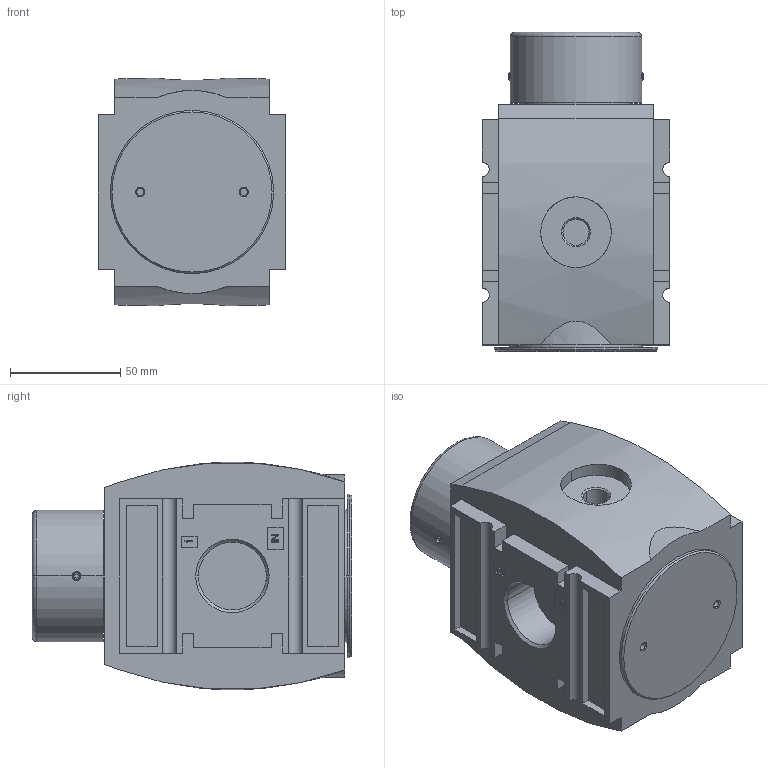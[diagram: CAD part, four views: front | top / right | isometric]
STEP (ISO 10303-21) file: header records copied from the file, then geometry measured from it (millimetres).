
FILE_DESCRIPTION((''),'2;1');
FILE_NAME('R412009095','2016-05-25T',('vol1hc'),(''),'PRO/ENGINEER BY PARAMETRIC TECHNOLOGY CORPORATION, 2012421','PRO/ENGINEER BY PARAMETRIC TECHNOLOGY CORPORATION, 2012421','');
FILE_SCHEMA(('CONFIG_CONTROL_DESIGN','SHAPE_APPEARANCE_LAYERS_GROUPS'));
Length unit declared in the file: millimetre
Products named in the file (1): R412009095
Bounding box: 85 x 144.6 x 103 mm (x, y, z)
Volume: 880430.7 mm3; surface area: 74526.8 mm2
Topology: 1 solids, 1 shells, 338 faces, 869 edges, 568 vertices
Faces by surface type: plane 264, cylinder 40, cone 32, torus 2
Entity records: 10690 total; most frequent: CARTESIAN_POINT 2317, ORIENTED_EDGE 1738, DIRECTION 1645, EDGE_CURVE 869, VECTOR 749, LINE 749, VERTEX_POINT 568, AXIS2_PLACEMENT_3D 448
